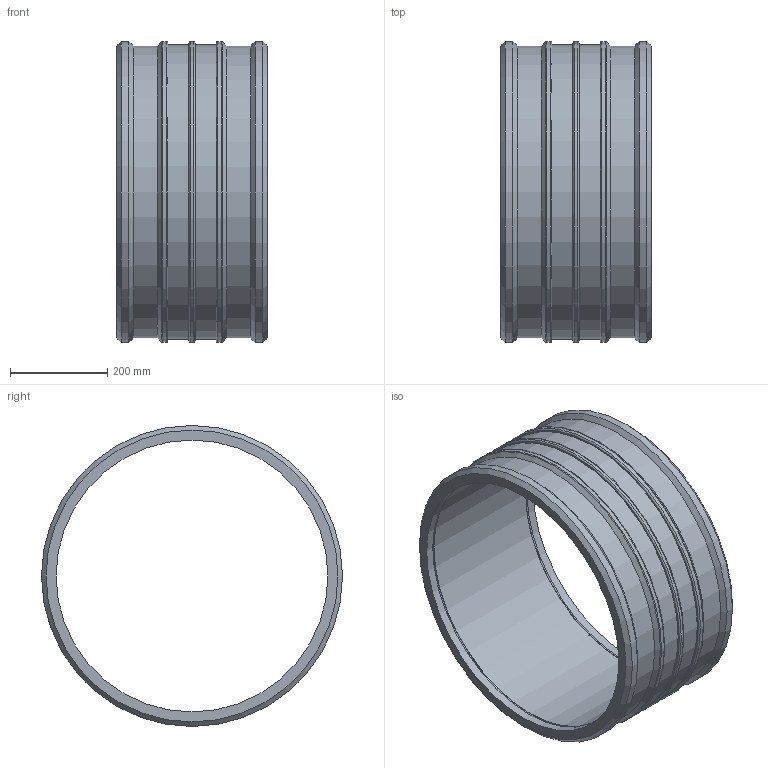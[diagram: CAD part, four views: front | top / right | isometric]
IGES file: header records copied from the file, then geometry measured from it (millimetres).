
Global section: file name: 4601S3560.ipt; native system: Autodesk Inventor 2015; preprocessor: unknown; author: KIM; date: 20190627.094247; units: millimetre
Bounding box: 310 x 620 x 620 mm (x, y, z)
Volume: 13906568.2 mm3; surface area: 1299270.6 mm2
Topology: 1 solids, 1 shells, 48 faces, 106 edges, 70 vertices
Faces by surface type: cylinder 15, plane 14, revolution 13, cone 6
Full cylindrical faces by diameter (mm): 4 x2, 601.4 x2, 607.6 x2, 620 x5
